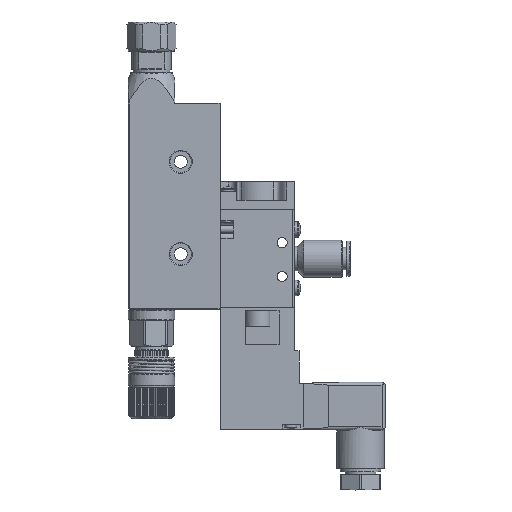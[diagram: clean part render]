
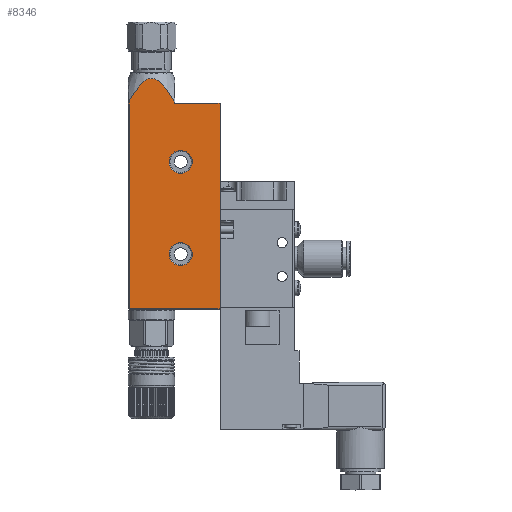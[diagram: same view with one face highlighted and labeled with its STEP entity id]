
A CAD part, left-side view. The second image highlights one B-rep face of the part: STEP entity #8346.
In plain terms, the highlighted planar face has unit normal (-1, 0, 0).
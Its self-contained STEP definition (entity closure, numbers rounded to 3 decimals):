
#36 = LINE ( 'NONE', #12940, #41476 ) ;
#390 = EDGE_LOOP ( 'NONE', ( #10835 ) ) ;
#1167 = CARTESIAN_POINT ( 'NONE',  ( -7.5, -13.25, 9.5 ) ) ;
#1275 = CARTESIAN_POINT ( 'NONE',  ( -7.5, -9.5, -20.5 ) ) ;
#1451 = LINE ( 'NONE', #7348, #30694 ) ;
#1954 = CARTESIAN_POINT ( 'NONE',  ( -7.5, 0.917, 36.513 ) ) ;
#2044 = AXIS2_PLACEMENT_3D ( 'NONE', #27724, #27925, #8854 ) ;
#2108 = DIRECTION ( 'NONE',  ( 0., 0., 1. ) ) ;
#2224 = EDGE_CURVE ( 'NONE', #40332, #40332, #37997, .T. ) ;
#2382 = CARTESIAN_POINT ( 'NONE',  ( -7.5, -6.585, 30.521 ) ) ;
#2935 = EDGE_CURVE ( 'NONE', #19490, #19583, #13365, .T. ) ;
#3283 = EDGE_CURVE ( 'NONE', #12295, #4288, #6721, .T. ) ;
#4055 = LINE ( 'NONE', #38991, #39569 ) ;
#4189 = ORIENTED_EDGE ( 'NONE', *, *, #22931, .T. ) ;
#4288 = VERTEX_POINT ( 'NONE', #40022 ) ;
#5098 = EDGE_LOOP ( 'NONE', ( #12215, #8562, #33445, #9187, #23030, #4189 ) ) ;
#5122 = CARTESIAN_POINT ( 'NONE',  ( -7.5, -2.322, 35.78 ) ) ;
#5315 = CARTESIAN_POINT ( 'NONE',  ( -7.5, 1.559, 36.253 ) ) ;
#5593 = EDGE_CURVE ( 'NONE', #20650, #20650, #9437, .T. ) ;
#5714 = VECTOR ( 'NONE', #41852, 1000. ) ;
#5940 = CARTESIAN_POINT ( 'NONE',  ( -7.5, 3.047, 35.184 ) ) ;
#6721 = LINE ( 'NONE', #35536, #37759 ) ;
#7348 = CARTESIAN_POINT ( 'NONE',  ( -7.5, -22.3, 28.5 ) ) ;
#8346 = ADVANCED_FACE ( 'NONE', ( #25725, #35671, #41805 ), #13433, .T. ) ;
#8503 = CARTESIAN_POINT ( 'NONE',  ( -7.5, -2.505, 35.64 ) ) ;
#8562 = ORIENTED_EDGE ( 'NONE', *, *, #31030, .T. ) ;
#8704 = CARTESIAN_POINT ( 'NONE',  ( -7.5, 1.96, 36.026 ) ) ;
#8854 = DIRECTION ( 'NONE',  ( 0., -1., 0. ) ) ;
#8912 = CARTESIAN_POINT ( 'NONE',  ( -7.5, -7.5, 28.955 ) ) ;
#9125 = CARTESIAN_POINT ( 'NONE',  ( -7.5, -1.941, 36.037 ) ) ;
#9187 = ORIENTED_EDGE ( 'NONE', *, *, #16009, .T. ) ;
#9437 = CIRCLE ( 'NONE', #2044, 3.75 ) ;
#9971 = DIRECTION ( 'NONE',  ( 0., 0., 1. ) ) ;
#10811 = EDGE_CURVE ( 'NONE', #13093, #12207, #36, .T. ) ;
#10835 = ORIENTED_EDGE ( 'NONE', *, *, #5593, .T. ) ;
#11685 = CARTESIAN_POINT ( 'NONE',  ( -7.5, -5.1, 32.789 ) ) ;
#11908 = CARTESIAN_POINT ( 'NONE',  ( -7.5, 0.235, 36.643 ) ) ;
#12207 = VERTEX_POINT ( 'NONE', #35109 ) ;
#12215 = ORIENTED_EDGE ( 'NONE', *, *, #10811, .T. ) ;
#12293 = AXIS2_PLACEMENT_3D ( 'NONE', #1275, #37244, #2108 ) ;
#12295 = VERTEX_POINT ( 'NONE', #35314 ) ;
#12306 = CARTESIAN_POINT ( 'NONE',  ( -7.5, 0.692, 36.573 ) ) ;
#12521 = CARTESIAN_POINT ( 'NONE',  ( -7.5, 6.371, 30.869 ) ) ;
#12940 = CARTESIAN_POINT ( 'NONE',  ( -7.5, 7.5, -38.3 ) ) ;
#13086 = DIRECTION ( 'NONE',  ( 0., 1., 0. ) ) ;
#13093 = VERTEX_POINT ( 'NONE', #33782 ) ;
#13365 = B_SPLINE_CURVE_WITH_KNOTS ( 'NONE', 3,
 ( #8912, #15496, #2382, #15292, #11685, #31783, #27990, #28207, #18672, #21631, #34970, #8503, #5122, #9125, #41307, #30944, #18256, #34552, #15685, #34346, #11908, #12306, #1954, #28611, #5315, #8704, #25217, #31156, #5940, #41514, #14866, #40906, #24816, #12521, #27781, #25432 ),
 .UNSPECIFIED., .F., .F.,
 ( 4, 2, 2, 2, 2, 2, 2, 2, 2, 2, 2, 2, 2, 2, 2, 2, 2, 4 ),
 ( 0., 0.003, 0.005, 0.007, 0.007, 0.008, 0.009, 0.009, 0.01, 0.011, 0.012, 0.012, 0.013, 0.014, 0.015, 0.016, 0.019, 0.022 ),
 .UNSPECIFIED. ) ;
#13433 = PLANE ( 'NONE',  #35836 ) ;
#14866 = CARTESIAN_POINT ( 'NONE',  ( -7.5, 3.992, 34.187 ) ) ;
#15292 = CARTESIAN_POINT ( 'NONE',  ( -7.5, -5.61, 32.044 ) ) ;
#15496 = CARTESIAN_POINT ( 'NONE',  ( -7.5, -7.05, 29.743 ) ) ;
#15685 = CARTESIAN_POINT ( 'NONE',  ( -7.5, -0.453, 36.619 ) ) ;
#16009 = EDGE_CURVE ( 'NONE', #4288, #19490, #4055, .T. ) ;
#18256 = CARTESIAN_POINT ( 'NONE',  ( -7.5, -1.12, 36.445 ) ) ;
#18672 = CARTESIAN_POINT ( 'NONE',  ( -7.5, -3.358, 34.871 ) ) ;
#19490 = VERTEX_POINT ( 'NONE', #40991 ) ;
#19583 = VERTEX_POINT ( 'NONE', #28077 ) ;
#19772 = DIRECTION ( 'NONE',  ( -1., 0., 0. ) ) ;
#20650 = VERTEX_POINT ( 'NONE', #1167 ) ;
#21631 = CARTESIAN_POINT ( 'NONE',  ( -7.5, -3.029, 35.19 ) ) ;
#22801 = LINE ( 'NONE', #29778, #5714 ) ;
#22859 = ORIENTED_EDGE ( 'NONE', *, *, #2224, .T. ) ;
#22931 = EDGE_CURVE ( 'NONE', #19583, #13093, #22801, .T. ) ;
#22980 = EDGE_LOOP ( 'NONE', ( #22859 ) ) ;
#23030 = ORIENTED_EDGE ( 'NONE', *, *, #2935, .T. ) ;
#23665 = DIRECTION ( 'NONE',  ( 0., 0., 1. ) ) ;
#24816 = CARTESIAN_POINT ( 'NONE',  ( -7.5, 5.376, 32.388 ) ) ;
#25217 = CARTESIAN_POINT ( 'NONE',  ( -7.5, 2.151, 35.9 ) ) ;
#25432 = CARTESIAN_POINT ( 'NONE',  ( -7.5, 7.3, 29.302 ) ) ;
#25516 = DIRECTION ( 'NONE',  ( 0., 0., 1. ) ) ;
#25725 = FACE_BOUND ( 'NONE', #22980, .T. ) ;
#25853 = DIRECTION ( 'NONE',  ( 0., -1., 0. ) ) ;
#27201 = CARTESIAN_POINT ( 'NONE',  ( -7.5, -9.5, -16.75 ) ) ;
#27724 = CARTESIAN_POINT ( 'NONE',  ( -7.5, -9.5, 9.5 ) ) ;
#27781 = CARTESIAN_POINT ( 'NONE',  ( -7.5, 6.843, 30.091 ) ) ;
#27925 = DIRECTION ( 'NONE',  ( 1., 0., 0. ) ) ;
#27990 = CARTESIAN_POINT ( 'NONE',  ( -7.5, -3.978, 34.205 ) ) ;
#28077 = CARTESIAN_POINT ( 'NONE',  ( -7.5, 7.3, 29.302 ) ) ;
#28207 = CARTESIAN_POINT ( 'NONE',  ( -7.5, -3.517, 34.707 ) ) ;
#28611 = CARTESIAN_POINT ( 'NONE',  ( -7.5, 1.348, 36.353 ) ) ;
#29113 = CARTESIAN_POINT ( 'NONE',  ( -7.5, 7.5, 28.5 ) ) ;
#29778 = CARTESIAN_POINT ( 'NONE',  ( -7.5, 7.3, 28.5 ) ) ;
#30694 = VECTOR ( 'NONE', #23665, 1000. ) ;
#30944 = CARTESIAN_POINT ( 'NONE',  ( -7.5, -1.331, 36.36 ) ) ;
#31030 = EDGE_CURVE ( 'NONE', #12207, #12295, #1451, .T. ) ;
#31156 = CARTESIAN_POINT ( 'NONE',  ( -7.5, 2.704, 35.493 ) ) ;
#31783 = CARTESIAN_POINT ( 'NONE',  ( -7.5, -4.267, 33.857 ) ) ;
#33445 = ORIENTED_EDGE ( 'NONE', *, *, #3283, .T. ) ;
#33782 = CARTESIAN_POINT ( 'NONE',  ( -7.5, 7.3, -38.3 ) ) ;
#34346 = CARTESIAN_POINT ( 'NONE',  ( -7.5, 0.006, 36.652 ) ) ;
#34552 = CARTESIAN_POINT ( 'NONE',  ( -7.5, -0.683, 36.575 ) ) ;
#34970 = CARTESIAN_POINT ( 'NONE',  ( -7.5, -2.858, 35.346 ) ) ;
#35109 = CARTESIAN_POINT ( 'NONE',  ( -7.5, -22.3, -38.3 ) ) ;
#35314 = CARTESIAN_POINT ( 'NONE',  ( -7.5, -22.3, 28.5 ) ) ;
#35536 = CARTESIAN_POINT ( 'NONE',  ( -7.5, 7.5, 28.5 ) ) ;
#35671 = FACE_BOUND ( 'NONE', #390, .T. ) ;
#35836 = AXIS2_PLACEMENT_3D ( 'NONE', #29113, #19772, #25516 ) ;
#37244 = DIRECTION ( 'NONE',  ( 1., 0., 0. ) ) ;
#37759 = VECTOR ( 'NONE', #13086, 1000. ) ;
#37997 = CIRCLE ( 'NONE', #12293, 3.75 ) ;
#38991 = CARTESIAN_POINT ( 'NONE',  ( -7.5, -7.5, 38.5 ) ) ;
#39569 = VECTOR ( 'NONE', #9971, 1000. ) ;
#40022 = CARTESIAN_POINT ( 'NONE',  ( -7.5, -7.5, 28.5 ) ) ;
#40332 = VERTEX_POINT ( 'NONE', #27201 ) ;
#40906 = CARTESIAN_POINT ( 'NONE',  ( -7.5, 4.853, 33.13 ) ) ;
#40991 = CARTESIAN_POINT ( 'NONE',  ( -7.5, -7.5, 28.955 ) ) ;
#41307 = CARTESIAN_POINT ( 'NONE',  ( -7.5, -1.742, 36.156 ) ) ;
#41476 = VECTOR ( 'NONE', #25853, 1000. ) ;
#41514 = CARTESIAN_POINT ( 'NONE',  ( -7.5, 3.691, 34.53 ) ) ;
#41805 = FACE_OUTER_BOUND ( 'NONE', #5098, .T. ) ;
#41852 = DIRECTION ( 'NONE',  ( 0., 0., -1. ) ) ;
